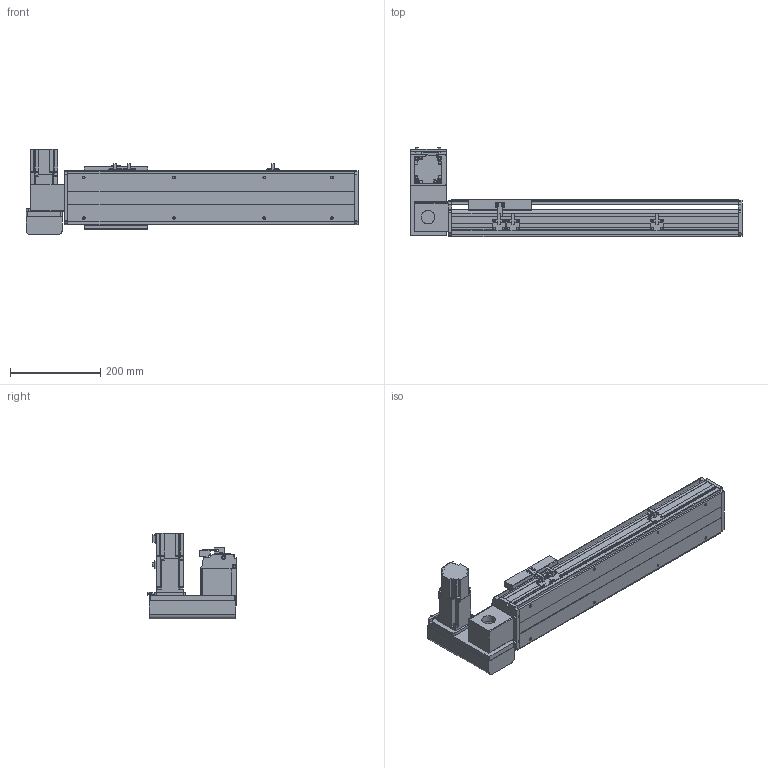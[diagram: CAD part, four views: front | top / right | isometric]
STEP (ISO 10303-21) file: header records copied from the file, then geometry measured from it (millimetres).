
FILE_DESCRIPTION( ( 'STEP AP214' ), '1' );
FILE_NAME( 'x:/temp/worker_27/temp/exporttempdir_6708_94_XIGhI/format_0/PBS120-P40-S350-LU-T40-C1-N(0).stp', '2022-06-06T00:30:16', ( 'License CC BY-ND 4.0' ), ( 'CADENAS' ), ' ', 'PARTsolutions', ' ' );
FILE_SCHEMA( ( 'AUTOMOTIVE_DESIGN { 1 0 10303 214 1 1 1 1 }' ) );
Length unit declared in the file: millimetre
Products named in the file (7): PBS120-P40-S350-LU-T40-C1-N(0); _PBS120-S350()_body; _PBS120T-LU_motors; _T40-p1; _PBS120_sliser; _PBS120_plant; _PBS120_sensor
Assembly tree (8 placements, depth 2):
  PBS120-P40-S350-LU-T40-C1-N(0)
    _PBS120-S350()_body
    _PBS120T-LU_motors
    _T40-p1
    _PBS120_sliser
    _PBS120_plant
    _PBS120_sensor  x3
Bounding box: 736 x 198 x 189.7 mm (x, y, z)
Volume: 3845577.6 mm3; surface area: 696931.9 mm2
Topology: 8 solids, 8 shells, 804 faces, 2116 edges, 1363 vertices
Faces by surface type: plane 541, cylinder 221, cone 40, torus 2
Full cylindrical faces by diameter (mm): 2.459 x6, 3.242 x4, 4 x2, 4.134 x4, 4.5 x10, 4.917 x12, 5.5 x11, 6 x2, 6.6 x1, 7 x2, 8.5 x4, 9 x4, 12 x1, 14 x1, 30 x2, 40 x1, 50 x2
Entity records: 26652 total; most frequent: DIRECTION 3644, CARTESIAN_POINT 3605, ORIENTED_EDGE 3454, EDGE_CURVE 1727, LINE 1228, VECTOR 1228, AXIS2_PLACEMENT_3D 1208, VERTEX_POINT 1169
